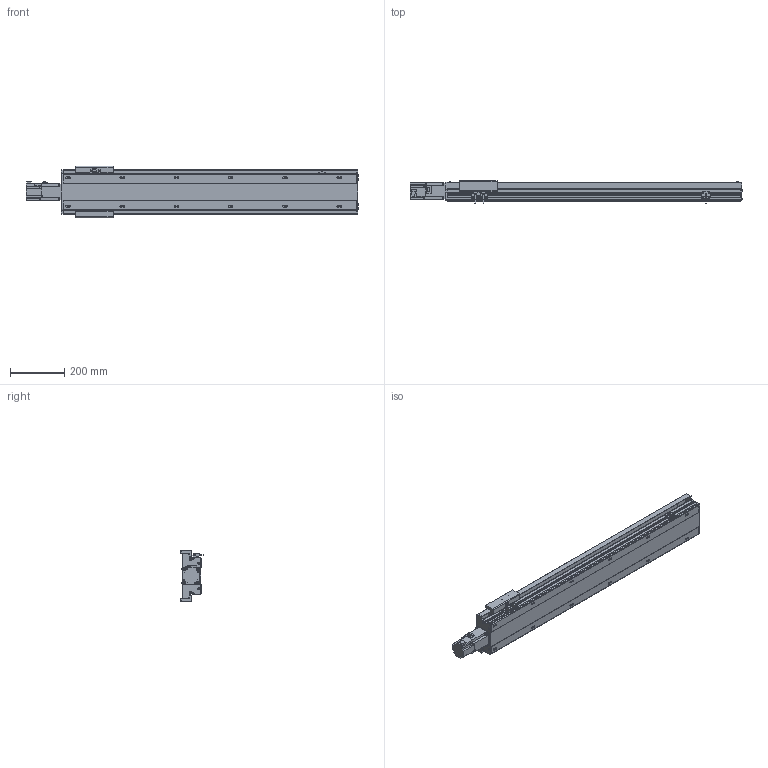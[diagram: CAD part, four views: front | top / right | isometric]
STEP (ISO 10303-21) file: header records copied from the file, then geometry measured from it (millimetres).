
FILE_DESCRIPTION(/* description */ ('STEP AP214'),/* implementation_level */ '2;1');
FILE_NAME(/* name */ 'PSM140-L10-S850-BC-T40-C1-N(0)',/* time_stamp */ '2022-06-13T03:19:45+02:00',/* author */ ('License CC BY-ND 4.0'),/* organization */ ('CADENAS'),/* preprocessor_version */ 'ST-DEVELOPER v18.102',/* originating_system */ 'PARTsolutions',/* authorisation */ ' ');
FILE_SCHEMA (('AUTOMOTIVE_DESIGN {1 0 10303 214 3 1 1}'));
Length unit declared in the file: millimetre
Products named in the file (7): PSM140-L10-S850-BC-T40-C1-N(0); PSM-Sensor; PSM140-S850-1092.5; T40-p1; PSM140_body3; PSM140-S850_body1; PSM140-L10-S850-BC-T40-C1-N(0)_dummy
Assembly tree (10 placements, depth 2):
  PSM140-L10-S850-BC-T40-C1-N(0)
    PSM-Sensor  x3
    PSM140-S850-1092.5  x3
    T40-p1
    PSM140_body3
    PSM140-S850_body1
    PSM140-L10-S850-BC-T40-C1-N(0)_dummy
Bounding box: 1223.7 x 81.3 x 190 mm (x, y, z)
Volume: 5199845.3 mm3; surface area: 1108678.5 mm2
Topology: 9 solids, 9 shells, 960 faces, 2541 edges, 1652 vertices
Faces by surface type: plane 628, cylinder 258, cone 60, torus 14
Full cylindrical faces by diameter (mm): 2.8 x3, 4.5 x12, 4.6 x3, 4.917 x20, 5.5 x7, 5.7 x6, 6 x2, 7 x20, 8 x8, 8.5 x4, 10.5 x12, 14 x1, 50 x1
Entity records: 24517 total; most frequent: CARTESIAN_POINT 4410, DIRECTION 4133, ORIENTED_EDGE 3890, EDGE_CURVE 1945, AXIS2_PLACEMENT_3D 1383, LINE 1367, VECTOR 1367, VERTEX_POINT 1366
